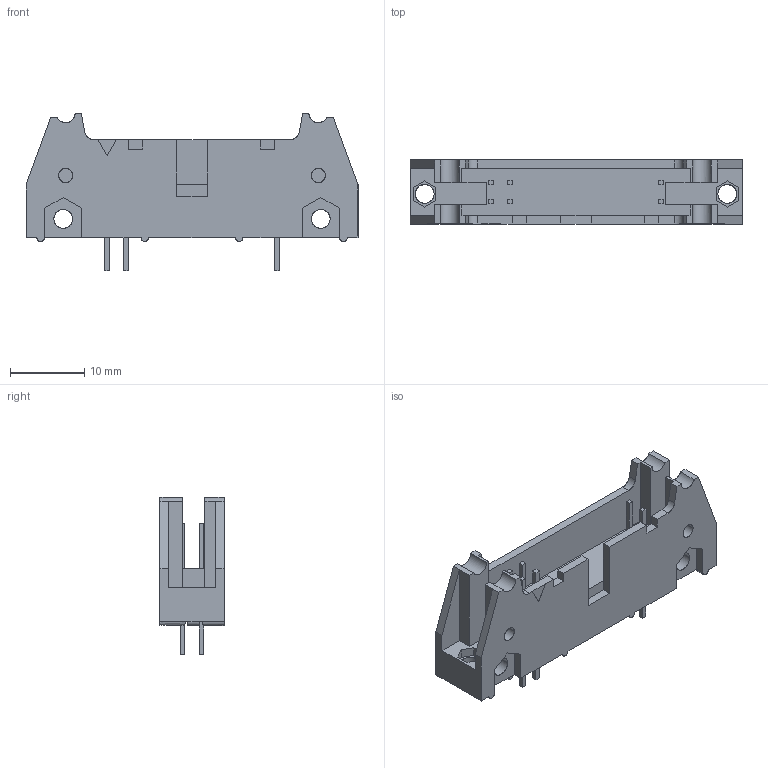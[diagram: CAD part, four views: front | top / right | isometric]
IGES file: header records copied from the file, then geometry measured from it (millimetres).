
Start section: Comment
Global section: file name: 3428-6003.igs; native system:  By Spatial Corp. IGES DAT; preprocessor: XIGES V1.0; author: Author; organization: Title; date: 20060119.100950; units: metre
Bounding box: 44.7 x 8.64 x 21.21 mm (x, y, z)
Surface area: 3356.8 mm2 (no closed solid volume)
Topology: 0 solids, 0 shells, 183 faces, 2394 edges, 2394 vertices
Faces by surface type: extrusion 155, revolution 28
